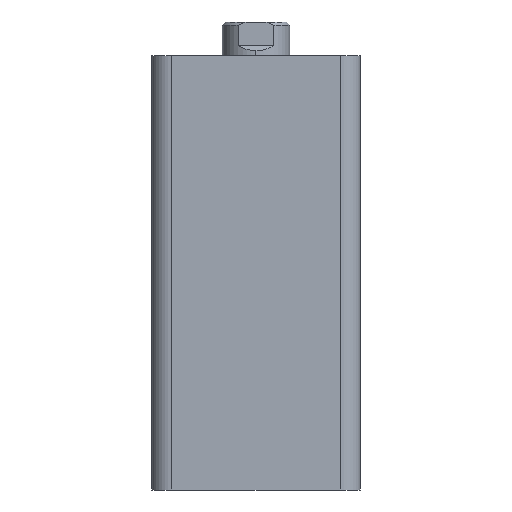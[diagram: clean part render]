
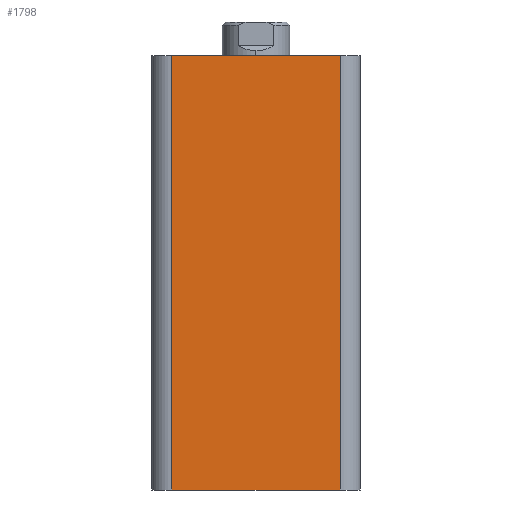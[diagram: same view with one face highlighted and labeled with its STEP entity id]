
A CAD part, left-side view. The second image highlights one B-rep face of the part: STEP entity #1798.
In plain terms, the highlighted planar face has unit normal (-1, 0, 0).
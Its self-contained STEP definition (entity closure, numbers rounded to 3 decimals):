
#95 = FACE_OUTER_BOUND ( 'NONE', #4224, .T. ) ;
#142 = DIRECTION ( 'NONE',  ( 1., 0., 0. ) ) ;
#145 = DIRECTION ( 'NONE',  ( 0., 0., -1. ) ) ;
#233 = AXIS2_PLACEMENT_3D ( 'NONE', #569, #142, #145 ) ;
#565 = PLANE ( 'NONE',  #233 ) ;
#569 = CARTESIAN_POINT ( 'NONE',  ( -31., 31., 129. ) ) ;
#614 = CARTESIAN_POINT ( 'NONE',  ( -31., -25., 129. ) ) ;
#674 = DIRECTION ( 'NONE',  ( 0., -1., 0. ) ) ;
#690 = CARTESIAN_POINT ( 'NONE',  ( -31., 31., 129. ) ) ;
#853 = DIRECTION ( 'NONE',  ( 0., -1., 0. ) ) ;
#855 = CARTESIAN_POINT ( 'NONE',  ( -31., 31., 0. ) ) ;
#880 = CARTESIAN_POINT ( 'NONE',  ( -31., -25., 129. ) ) ;
#881 = DIRECTION ( 'NONE',  ( 0., 0., 1. ) ) ;
#882 = CARTESIAN_POINT ( 'NONE',  ( -31., 25., 129. ) ) ;
#883 = DIRECTION ( 'NONE',  ( 0., 0., -1. ) ) ;
#1114 = LINE ( 'NONE', #690, #1117 ) ;
#1117 = VECTOR ( 'NONE', #674, 1000. ) ;
#1154 = LINE ( 'NONE', #855, #1158 ) ;
#1158 = VECTOR ( 'NONE', #853, 1000. ) ;
#1172 = LINE ( 'NONE', #880, #1175 ) ;
#1174 = LINE ( 'NONE', #882, #1177 ) ;
#1175 = VECTOR ( 'NONE', #881, 1000. ) ;
#1177 = VECTOR ( 'NONE', #883, 1000. ) ;
#1798 = ADVANCED_FACE ( 'NONE', ( #95 ), #565, .F. ) ;
#1844 = VERTEX_POINT ( 'NONE', #614 ) ;
#2337 = EDGE_CURVE ( 'NONE', #2883, #1844, #1114, .T. ) ;
#2372 = EDGE_CURVE ( 'NONE', #2995, #2836, #1154, .T. ) ;
#2382 = EDGE_CURVE ( 'NONE', #2836, #1844, #1172, .T. ) ;
#2383 = EDGE_CURVE ( 'NONE', #2883, #2995, #1174, .T. ) ;
#2836 = VERTEX_POINT ( 'NONE', #4883 ) ;
#2883 = VERTEX_POINT ( 'NONE', #4922 ) ;
#2995 = VERTEX_POINT ( 'NONE', #4947 ) ;
#4224 = EDGE_LOOP ( 'NONE', ( #4465, #4466, #4468, #4473 ) ) ;
#4465 = ORIENTED_EDGE ( 'NONE', *, *, #2372, .T. ) ;
#4466 = ORIENTED_EDGE ( 'NONE', *, *, #2382, .T. ) ;
#4468 = ORIENTED_EDGE ( 'NONE', *, *, #2337, .F. ) ;
#4473 = ORIENTED_EDGE ( 'NONE', *, *, #2383, .T. ) ;
#4883 = CARTESIAN_POINT ( 'NONE',  ( -31., -25., 0. ) ) ;
#4922 = CARTESIAN_POINT ( 'NONE',  ( -31., 25., 129. ) ) ;
#4947 = CARTESIAN_POINT ( 'NONE',  ( -31., 25., 0. ) ) ;
